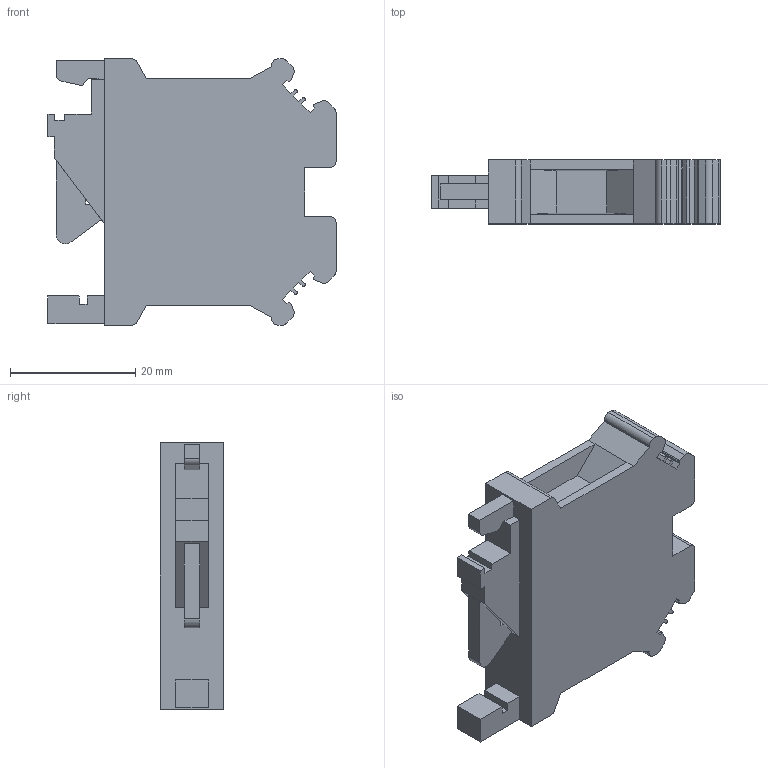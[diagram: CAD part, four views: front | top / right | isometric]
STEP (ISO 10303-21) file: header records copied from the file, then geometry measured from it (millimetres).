
FILE_DESCRIPTION((''),'2;1');
FILE_NAME('PRT0016','2020-06-05T',('Administrator'),(''),'PRO/ENGINEER BY PARAMETRIC TECHNOLOGY CORPORATION, 2010280','PRO/ENGINEER BY PARAMETRIC TECHNOLOGY CORPORATION, 2010280','');
FILE_SCHEMA(('CONFIG_CONTROL_DESIGN'));
Length unit declared in the file: millimetre
Products named in the file (1): PRT0016
Bounding box: 46 x 10.2 x 42.5 mm (x, y, z)
Volume: 13401.8 mm3; surface area: 5695.5 mm2
Topology: 1 solids, 1 shells, 149 faces, 470 edges, 328 vertices
Faces by surface type: plane 115, cylinder 34
Entity records: 5280 total; most frequent: CARTESIAN_POINT 947, ORIENTED_EDGE 940, DIRECTION 850, EDGE_CURVE 470, VECTOR 388, LINE 388, VERTEX_POINT 328, AXIS2_PLACEMENT_3D 231
